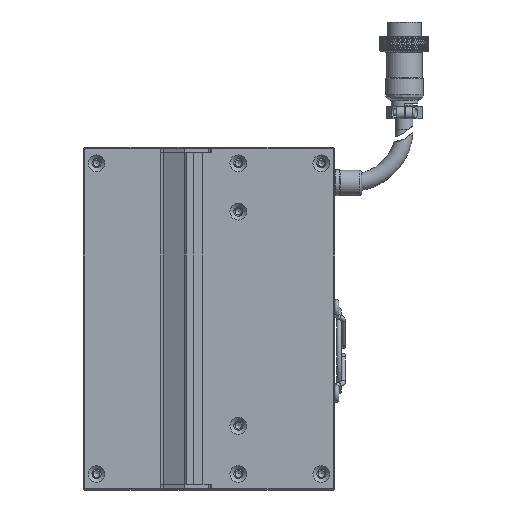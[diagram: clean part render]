
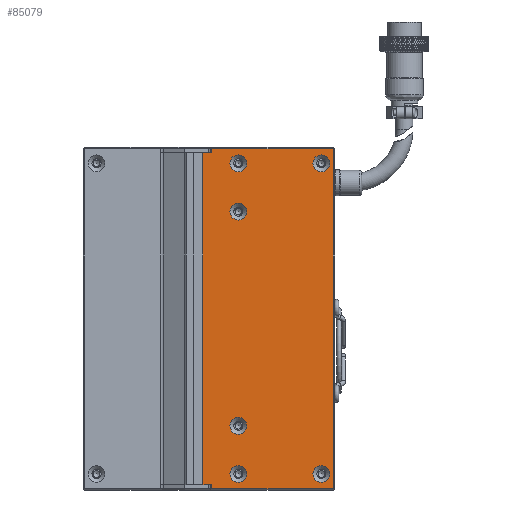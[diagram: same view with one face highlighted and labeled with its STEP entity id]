
A CAD part, left-side view. The second image highlights one B-rep face of the part: STEP entity #85079.
In plain terms, the highlighted planar face has unit normal (-1, 0, 0).
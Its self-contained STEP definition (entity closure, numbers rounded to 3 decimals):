
#1201 = EDGE_CURVE ( 'NONE', #95444, #95444, #8684, .T. ) ;
#2158 = CARTESIAN_POINT ( 'NONE',  ( -24.998, -72.5, 62. ) ) ;
#3220 = VERTEX_POINT ( 'NONE', #32941 ) ;
#3489 = ORIENTED_EDGE ( 'NONE', *, *, #108392, .F. ) ;
#6546 = AXIS2_PLACEMENT_3D ( 'NONE', #29822, #99977, #9648 ) ;
#7195 = CARTESIAN_POINT ( 'NONE',  ( -24.998, -72.5, -63.5 ) ) ;
#8208 = DIRECTION ( 'NONE',  ( 0., 0., 1. ) ) ;
#8383 = CARTESIAN_POINT ( 'NONE',  ( -24.998, -36.5, -36.85 ) ) ;
#8684 = CIRCLE ( 'NONE', #34453, 3.15 ) ;
#9648 = DIRECTION ( 'NONE',  ( 0., 0., -1. ) ) ;
#11136 = EDGE_LOOP ( 'NONE', ( #75863, #83880, #55842, #97263, #105393, #19609, #51094, #21300 ) ) ;
#11757 = FACE_BOUND ( 'NONE', #82489, .T. ) ;
#15316 = CARTESIAN_POINT ( 'NONE',  ( -24.998, -72., -63.5 ) ) ;
#16178 = LINE ( 'NONE', #44088, #64468 ) ;
#16285 = EDGE_CURVE ( 'NONE', #21577, #21577, #67118, .T. ) ;
#16666 = CARTESIAN_POINT ( 'NONE',  ( -24.998, -36.5, -54.85 ) ) ;
#17398 = FACE_BOUND ( 'NONE', #36270, .T. ) ;
#17965 = CARTESIAN_POINT ( 'NONE',  ( -24.998, -26.5, -55. ) ) ;
#19006 = AXIS2_PLACEMENT_3D ( 'NONE', #62456, #108022, #8208 ) ;
#19053 = VECTOR ( 'NONE', #105906, 1000. ) ;
#19609 = ORIENTED_EDGE ( 'NONE', *, *, #115399, .T. ) ;
#19906 = AXIS2_PLACEMENT_3D ( 'NONE', #52612, #80013, #43858 ) ;
#21300 = ORIENTED_EDGE ( 'NONE', *, *, #85348, .T. ) ;
#21459 = VERTEX_POINT ( 'NONE', #64954 ) ;
#21577 = VERTEX_POINT ( 'NONE', #32169 ) ;
#24271 = LINE ( 'NONE', #82502, #64038 ) ;
#24387 = VECTOR ( 'NONE', #65950, 1000. ) ;
#26599 = VECTOR ( 'NONE', #117619, 1000. ) ;
#29822 = CARTESIAN_POINT ( 'NONE',  ( -24.998, -72.5, -55. ) ) ;
#30158 = FACE_BOUND ( 'NONE', #33086, .T. ) ;
#32169 = CARTESIAN_POINT ( 'NONE',  ( -24.998, -67.5, -54.85 ) ) ;
#32941 = CARTESIAN_POINT ( 'NONE',  ( -24.998, -67.5, 61.15 ) ) ;
#32983 = FACE_OUTER_BOUND ( 'NONE', #11136, .T. ) ;
#33086 = EDGE_LOOP ( 'NONE', ( #51912 ) ) ;
#34453 = AXIS2_PLACEMENT_3D ( 'NONE', #96240, #41842, #77267 ) ;
#36251 = DIRECTION ( 'NONE',  ( 0., 1., 0. ) ) ;
#36270 = EDGE_LOOP ( 'NONE', ( #38446 ) ) ;
#36530 = LINE ( 'NONE', #52962, #26599 ) ;
#37793 = DIRECTION ( 'NONE',  ( 0., 0., 1. ) ) ;
#38132 = EDGE_CURVE ( 'NONE', #105400, #87846, #83726, .T. ) ;
#38344 = VERTEX_POINT ( 'NONE', #107818 ) ;
#38446 = ORIENTED_EDGE ( 'NONE', *, *, #98564, .F. ) ;
#38621 = FACE_BOUND ( 'NONE', #86873, .T. ) ;
#40078 = CARTESIAN_POINT ( 'NONE',  ( -24.998, -36.5, 61.15 ) ) ;
#41842 = DIRECTION ( 'NONE',  ( -1., 0., 0. ) ) ;
#42440 = CARTESIAN_POINT ( 'NONE',  ( -24.998, -72.5, -62. ) ) ;
#43128 = LINE ( 'NONE', #42440, #19053 ) ;
#43327 = DIRECTION ( 'NONE',  ( 0., 0., 1. ) ) ;
#43583 = DIRECTION ( 'NONE',  ( 0., -1., 0. ) ) ;
#43858 = DIRECTION ( 'NONE',  ( 0., 0., 1. ) ) ;
#44088 = CARTESIAN_POINT ( 'NONE',  ( -24.998, -72., -55. ) ) ;
#44181 = EDGE_CURVE ( 'NONE', #3220, #3220, #91548, .T. ) ;
#45143 = DIRECTION ( 'NONE',  ( 0., 0., -1. ) ) ;
#46331 = VERTEX_POINT ( 'NONE', #72223 ) ;
#46637 = CARTESIAN_POINT ( 'NONE',  ( -24.998, -72., 63.5 ) ) ;
#48571 = FACE_BOUND ( 'NONE', #85574, .T. ) ;
#51094 = ORIENTED_EDGE ( 'NONE', *, *, #57565, .T. ) ;
#51297 = VERTEX_POINT ( 'NONE', #95941 ) ;
#51348 = CARTESIAN_POINT ( 'NONE',  ( -24.998, -26.5, -63.5 ) ) ;
#51912 = ORIENTED_EDGE ( 'NONE', *, *, #16285, .F. ) ;
#52054 = CARTESIAN_POINT ( 'NONE',  ( -24.998, -23.25, -62. ) ) ;
#52612 = CARTESIAN_POINT ( 'NONE',  ( -24.998, -67.5, 58. ) ) ;
#52962 = CARTESIAN_POINT ( 'NONE',  ( -24.998, -23.25, -62. ) ) ;
#53454 = CIRCLE ( 'NONE', #19006, 3.15 ) ;
#55300 = DIRECTION ( 'NONE',  ( -1., 0., 0. ) ) ;
#55842 = ORIENTED_EDGE ( 'NONE', *, *, #58087, .T. ) ;
#57565 = EDGE_CURVE ( 'NONE', #21459, #97184, #82466, .T. ) ;
#57629 = EDGE_CURVE ( 'NONE', #46331, #51297, #96781, .T. ) ;
#57756 = DIRECTION ( 'NONE',  ( -1., 0., 0. ) ) ;
#58087 = EDGE_CURVE ( 'NONE', #87846, #51297, #24271, .T. ) ;
#58332 = AXIS2_PLACEMENT_3D ( 'NONE', #83103, #55300, #37793 ) ;
#59547 = VECTOR ( 'NONE', #36251, 1000. ) ;
#62456 = CARTESIAN_POINT ( 'NONE',  ( -24.998, -36.5, -58. ) ) ;
#64038 = VECTOR ( 'NONE', #45143, 1000. ) ;
#64468 = VECTOR ( 'NONE', #43327, 1000. ) ;
#64487 = CIRCLE ( 'NONE', #70993, 3.15 ) ;
#64954 = CARTESIAN_POINT ( 'NONE',  ( -24.998, -26.5, -62. ) ) ;
#65950 = DIRECTION ( 'NONE',  ( 0., -1., 0. ) ) ;
#66399 = CIRCLE ( 'NONE', #58332, 3.15 ) ;
#67118 = CIRCLE ( 'NONE', #111936, 3.15 ) ;
#68327 = DIRECTION ( 'NONE',  ( -1., 0., 0. ) ) ;
#68565 = LINE ( 'NONE', #7195, #96843 ) ;
#69099 = EDGE_CURVE ( 'NONE', #89802, #46331, #36530, .T. ) ;
#70993 = AXIS2_PLACEMENT_3D ( 'NONE', #75620, #57756, #112460 ) ;
#72223 = CARTESIAN_POINT ( 'NONE',  ( -24.998, -23.25, 62. ) ) ;
#72580 = VERTEX_POINT ( 'NONE', #16666 ) ;
#72690 = PLANE ( 'NONE',  #6546 ) ;
#73530 = DIRECTION ( 'NONE',  ( 0., 0., -1. ) ) ;
#73969 = VERTEX_POINT ( 'NONE', #8383 ) ;
#75620 = CARTESIAN_POINT ( 'NONE',  ( -24.998, -36.5, 40. ) ) ;
#75863 = ORIENTED_EDGE ( 'NONE', *, *, #112913, .T. ) ;
#76318 = EDGE_LOOP ( 'NONE', ( #83134 ) ) ;
#77267 = DIRECTION ( 'NONE',  ( 0., 0., 1. ) ) ;
#77732 = VERTEX_POINT ( 'NONE', #15316 ) ;
#77916 = EDGE_CURVE ( 'NONE', #72580, #72580, #53454, .T. ) ;
#80013 = DIRECTION ( 'NONE',  ( -1., 0., 0. ) ) ;
#81801 = CARTESIAN_POINT ( 'NONE',  ( -24.998, -26.5, 63.5 ) ) ;
#82466 = LINE ( 'NONE', #17965, #88248 ) ;
#82489 = EDGE_LOOP ( 'NONE', ( #3489 ) ) ;
#82502 = CARTESIAN_POINT ( 'NONE',  ( -24.998, -26.5, 55. ) ) ;
#83103 = CARTESIAN_POINT ( 'NONE',  ( -24.998, -36.5, -40. ) ) ;
#83134 = ORIENTED_EDGE ( 'NONE', *, *, #44181, .F. ) ;
#83726 = LINE ( 'NONE', #90666, #59547 ) ;
#83880 = ORIENTED_EDGE ( 'NONE', *, *, #38132, .T. ) ;
#85079 = ADVANCED_FACE ( 'NONE', ( #32983, #30158, #48571, #92637, #17398, #38621, #11757 ), #72690, .F. ) ;
#85348 = EDGE_CURVE ( 'NONE', #97184, #77732, #68565, .T. ) ;
#85574 = EDGE_LOOP ( 'NONE', ( #105957 ) ) ;
#86873 = EDGE_LOOP ( 'NONE', ( #103953 ) ) ;
#87846 = VERTEX_POINT ( 'NONE', #81801 ) ;
#88248 = VECTOR ( 'NONE', #73530, 1000. ) ;
#89802 = VERTEX_POINT ( 'NONE', #52054 ) ;
#90666 = CARTESIAN_POINT ( 'NONE',  ( -24.998, -72.5, 63.5 ) ) ;
#91548 = CIRCLE ( 'NONE', #19906, 3.15 ) ;
#92637 = FACE_BOUND ( 'NONE', #76318, .T. ) ;
#95444 = VERTEX_POINT ( 'NONE', #40078 ) ;
#95941 = CARTESIAN_POINT ( 'NONE',  ( -24.998, -26.5, 62. ) ) ;
#96240 = CARTESIAN_POINT ( 'NONE',  ( -24.998, -36.5, 58. ) ) ;
#96781 = LINE ( 'NONE', #2158, #24387 ) ;
#96843 = VECTOR ( 'NONE', #43583, 1000. ) ;
#97184 = VERTEX_POINT ( 'NONE', #51348 ) ;
#97263 = ORIENTED_EDGE ( 'NONE', *, *, #57629, .F. ) ;
#98564 = EDGE_CURVE ( 'NONE', #38344, #38344, #64487, .T. ) ;
#99977 = DIRECTION ( 'NONE',  ( 1., 0., 0. ) ) ;
#103953 = ORIENTED_EDGE ( 'NONE', *, *, #1201, .F. ) ;
#105393 = ORIENTED_EDGE ( 'NONE', *, *, #69099, .F. ) ;
#105400 = VERTEX_POINT ( 'NONE', #46637 ) ;
#105906 = DIRECTION ( 'NONE',  ( 0., -1., 0. ) ) ;
#105957 = ORIENTED_EDGE ( 'NONE', *, *, #77916, .F. ) ;
#107818 = CARTESIAN_POINT ( 'NONE',  ( -24.998, -36.5, 43.15 ) ) ;
#108022 = DIRECTION ( 'NONE',  ( -1., 0., 0. ) ) ;
#108392 = EDGE_CURVE ( 'NONE', #73969, #73969, #66399, .T. ) ;
#111936 = AXIS2_PLACEMENT_3D ( 'NONE', #112708, #68327, #113875 ) ;
#112460 = DIRECTION ( 'NONE',  ( 0., 0., 1. ) ) ;
#112708 = CARTESIAN_POINT ( 'NONE',  ( -24.998, -67.5, -58. ) ) ;
#112913 = EDGE_CURVE ( 'NONE', #77732, #105400, #16178, .T. ) ;
#113875 = DIRECTION ( 'NONE',  ( 0., 0., 1. ) ) ;
#115399 = EDGE_CURVE ( 'NONE', #89802, #21459, #43128, .T. ) ;
#117619 = DIRECTION ( 'NONE',  ( 0., 0., 1. ) ) ;
